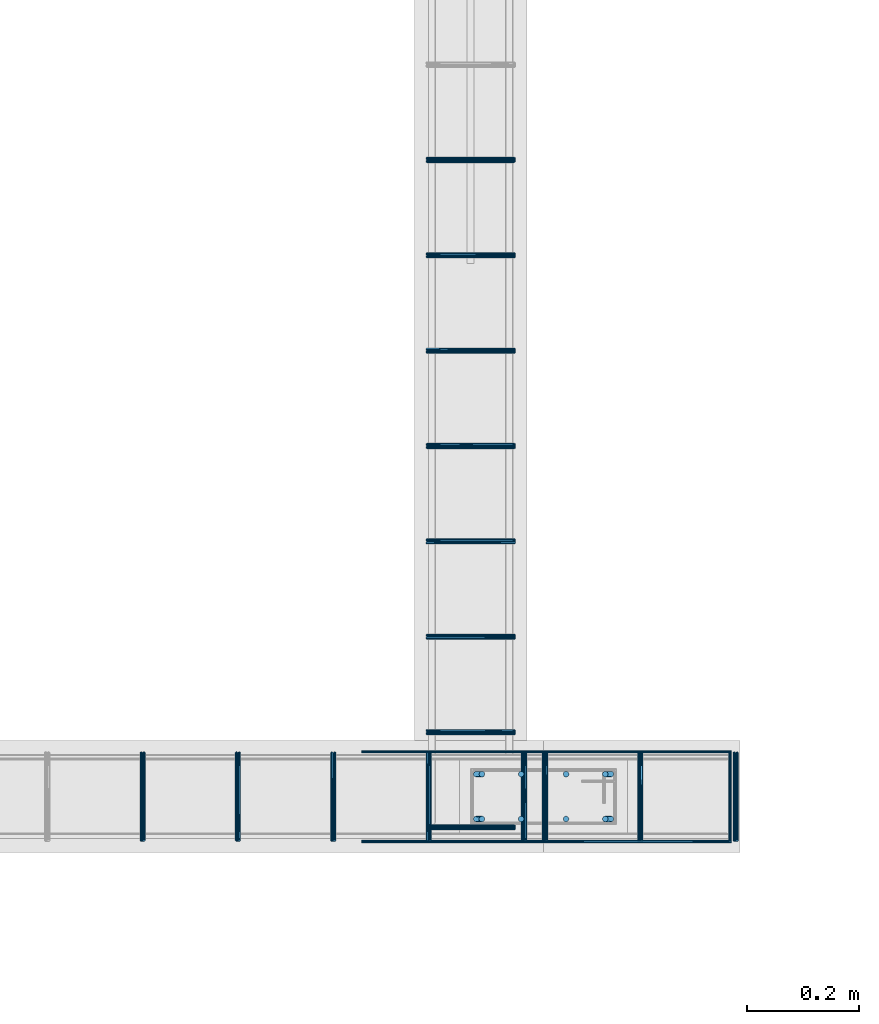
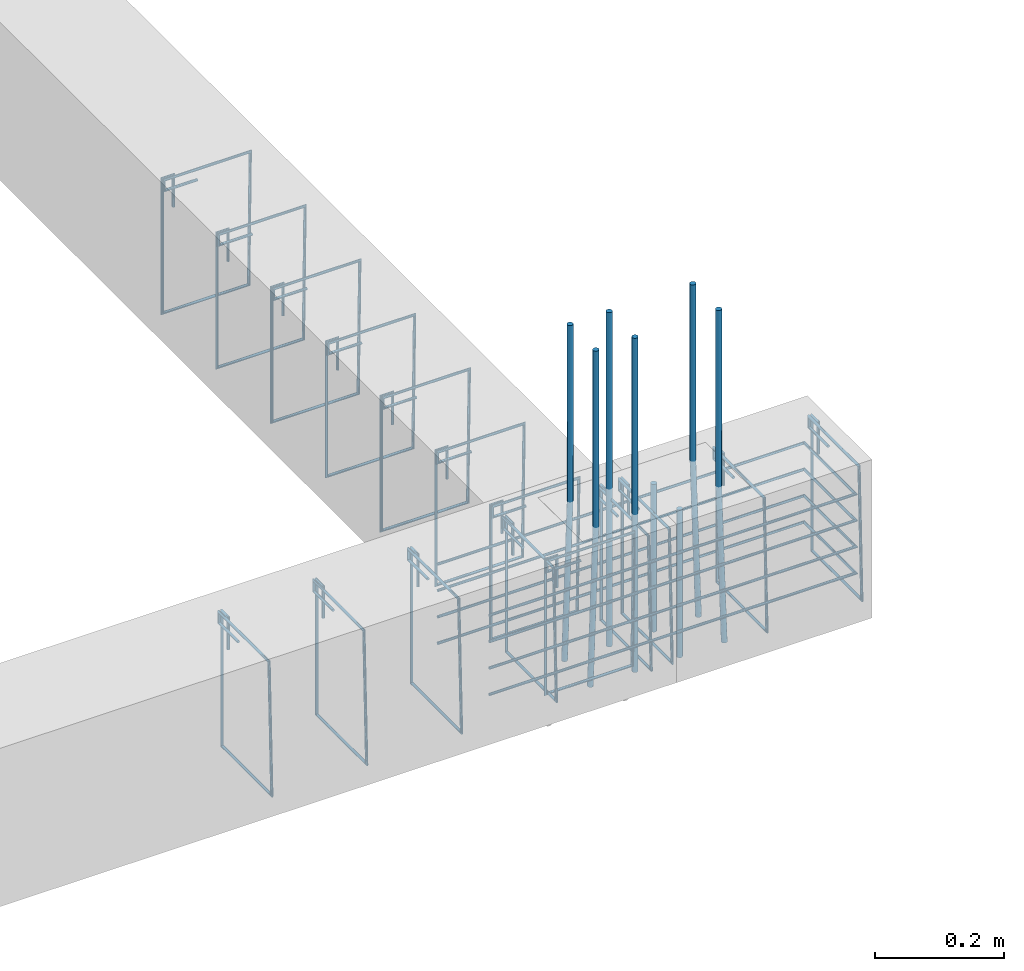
# One storey, part 105 of 150: 28 reinforcing bars.
"""IFC4 building model written with IfcOpenShell, lengths in centimetres."""

from ifc_helpers import new_model, entity, si_unit, derived_unit, frame, origin_with_axes, place, context, project, spatial, source, transform, mapped, element, save


model = new_model("IFC4")

# Units and contexts
model_context = context("Model", 3, precision=1e-05, world=origin_with_axes(), identifier="Body")
ifc_project = project(units=[si_unit("LENGTHUNIT", "METRE", prefix="CENTI"), si_unit("VOLUMEUNIT", "CUBIC_METRE"), si_unit("AREAUNIT", "SQUARE_METRE"), si_unit("POWERUNIT", "WATT"), si_unit("LUMINOUSFLUXUNIT", "LUMEN"), si_unit("ELECTRICCURRENTUNIT", "AMPERE"), si_unit("PRESSUREUNIT", "PASCAL", prefix="KILO"), si_unit("MASSUNIT", "GRAM", prefix="KILO"), si_unit("PLANEANGLEUNIT", "RADIAN"), derived_unit("VOLUMETRICFLOWRATEUNIT", [(si_unit("LENGTHUNIT", "METRE"), 3), (si_unit("TIMEUNIT", "SECOND"), -1)])], contexts=[model_context])

# Site, building, storey
site_placement = place(None, frame((-4000.0, 0.0, 0.0), z_axis=(0.0, 0.0, 1.0), x_axis=(1.0, 0.0, 0.0)))
site = spatial("IfcSite", under=ifc_project, at=site_placement, Name="PADRÃO")
building_placement = place(site_placement, frame((0.0, 0.0, -14.0)))
building = spatial("IfcBuilding", under=site, at=building_placement, Name="CRECHE PRÉ-ESCOLA TIPO 2")
placement = place(building_placement, origin_with_axes())
storey_placement = place(placement, frame((0.0, 0.0, 30.0), z_axis=(0.0, 0.0, 1.0), x_axis=(1.0, 0.0, 0.0)))
storey = spatial("IfcBuildingStorey", under=building, at=storey_placement, Name="VIGA BALDRAME", CompositionType="ELEMENT", Elevation=16.0)

# Reinforcing bars
shared_shape_1 = source(origin_with_axes(), model_context, "Body", "AdvancedSweptSolid", [
    entity("IfcSweptDiskSolid", entity("IfcCompositeCurve", [entity("IfcCompositeCurveSegment", "CONTINUOUS", True, entity("IfcPolyline", [entity("IfcCartesianPoint", [2.0, -6.0, 0.0]), entity("IfcCartesianPoint", [2.0, 0.0, 0.0])])), entity("IfcCompositeCurveSegment", "CONTINUOUS", True, entity("IfcPolyline", [entity("IfcCartesianPoint", [2.0, 0.0, 0.0]), entity("IfcCartesianPoint", [0.0, 0.0, 0.0])])), entity("IfcCompositeCurveSegment", "CONTINUOUS", True, entity("IfcPolyline", [entity("IfcCartesianPoint", [0.0, 0.0, 0.0]), entity("IfcCartesianPoint", [0.0, -25.5, 0.0])])), entity("IfcCompositeCurveSegment", "CONTINUOUS", True, entity("IfcPolyline", [entity("IfcCartesianPoint", [0.0, -25.5, 0.0]), entity("IfcCartesianPoint", [15.5, -25.5, 0.0])])), entity("IfcCompositeCurveSegment", "CONTINUOUS", True, entity("IfcPolyline", [entity("IfcCartesianPoint", [15.5, -25.5, 0.0]), entity("IfcCartesianPoint", [15.5, 0.0, 0.5])])), entity("IfcCompositeCurveSegment", "CONTINUOUS", True, entity("IfcPolyline", [entity("IfcCartesianPoint", [15.5, 0.0, 0.5]), entity("IfcCartesianPoint", [0.0, 0.0, 0.5])])), entity("IfcCompositeCurveSegment", "CONTINUOUS", True, entity("IfcPolyline", [entity("IfcCartesianPoint", [0.0, 0.0, 0.5]), entity("IfcCartesianPoint", [0.0, -2.0, 0.5])])), entity("IfcCompositeCurveSegment", "CONTINUOUS", True, entity("IfcPolyline", [entity("IfcCartesianPoint", [0.0, -2.0, 0.5]), entity("IfcCartesianPoint", [6.0, -2.0, 0.5])]))], False), 0.25),
])
for number, where, z_axis, x_axis, name in (
    (1, (3355.25, 2798.77, -2.25), (0.0, -1.0, 0.0), (1.0, 0.0, 0.0), "V227 - Estribo"),
    (2, (3355.25, 2781.77, -2.25), (0.0, -1.0, 0.0), (1.0, 0.0, 0.0), "V227 - Estribo"),
    (3, (3355.25, 2764.77, -2.25), (0.0, -1.0, 0.0), (1.0, 0.0, 0.0), "V227 - Estribo"),
    (4, (3355.25, 2747.77, -2.25), (0.0, -1.0, 0.0), (1.0, 0.0, 0.0), "V227 - Estribo"),
    (5, (3355.25, 2730.77, -2.25), (0.0, -1.0, 0.0), (1.0, 0.0, 0.0), "V227 - Estribo"),
    (6, (3355.25, 2713.77, -2.25), (0.0, -1.0, 0.0), (1.0, 0.0, 0.0), "V227 - Estribo"),
    (7, (3355.25, 2696.77, -2.25), (0.0, -1.0, 0.0), (1.0, 0.0, 0.0), "V227 - Estribo"),
    (8, (3355.25, 2679.77, -2.25), (0.0, -1.0, 0.0), (1.0, 0.0, 0.0), "V227 - Estribo"),
):
    element("IfcReinforcingBar", number, at=place(storey_placement, frame(where, z_axis=z_axis, x_axis=x_axis)), inside=storey, Name=name, BarLength=0.0, CrossSectionArea=1.9634954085e-05, NominalDiameter=0.5, PredefinedType="MAIN", context=model_context, shape_type="MappedRepresentation", body=[
        mapped(shared_shape_1, transform((0.0, 0.0, 0.0), scale=1.0)),
    ])
shared_shape_2 = source(origin_with_axes(), model_context, "Body", "AdvancedSweptSolid", [
    entity("IfcSweptDiskSolid", entity("IfcCompositeCurve", [entity("IfcCompositeCurveSegment", "CONTINUOUS", True, entity("IfcPolyline", [entity("IfcCartesianPoint", [2.0, -6.0, 0.0]), entity("IfcCartesianPoint", [2.0, 0.0, 0.0])])), entity("IfcCompositeCurveSegment", "CONTINUOUS", True, entity("IfcPolyline", [entity("IfcCartesianPoint", [2.0, 0.0, 0.0]), entity("IfcCartesianPoint", [0.0, 0.0, 0.0])])), entity("IfcCompositeCurveSegment", "CONTINUOUS", True, entity("IfcPolyline", [entity("IfcCartesianPoint", [0.0, 0.0, 0.0]), entity("IfcCartesianPoint", [0.0, -25.5, 0.0])])), entity("IfcCompositeCurveSegment", "CONTINUOUS", True, entity("IfcPolyline", [entity("IfcCartesianPoint", [0.0, -25.5, 0.0]), entity("IfcCartesianPoint", [15.5, -25.5, 0.0])])), entity("IfcCompositeCurveSegment", "CONTINUOUS", True, entity("IfcPolyline", [entity("IfcCartesianPoint", [15.5, -25.5, 0.0]), entity("IfcCartesianPoint", [15.5, 0.0, 0.5])])), entity("IfcCompositeCurveSegment", "CONTINUOUS", True, entity("IfcPolyline", [entity("IfcCartesianPoint", [15.5, 0.0, 0.5]), entity("IfcCartesianPoint", [0.0, 0.0, 0.5])])), entity("IfcCompositeCurveSegment", "CONTINUOUS", True, entity("IfcPolyline", [entity("IfcCartesianPoint", [0.0, 0.0, 0.5]), entity("IfcCartesianPoint", [0.0, -2.0, 0.5])])), entity("IfcCompositeCurveSegment", "CONTINUOUS", True, entity("IfcPolyline", [entity("IfcCartesianPoint", [0.0, -2.0, 0.5]), entity("IfcCartesianPoint", [6.0, -2.0, 0.5])]))], False), 0.25),
])
for number, where, z_axis, x_axis, name in (
    (9, (3338.75, 2692.77, -2.25), (-1.0, 0.0, 0.0), (0.0, -1.0, 0.0), "V118 - Estribo"),
    (10, (3304.75, 2692.77, -2.25), (-1.0, 0.0, 0.0), (0.0, -1.0, 0.0), "V118 - Estribo"),
    (11, (3321.75, 2692.77, -2.25), (-1.0, 0.0, 0.0), (0.0, -1.0, 0.0), "V118 - Estribo"),
    (12, (3355.75, 2692.77, -2.25), (-1.0, 0.0, 0.0), (0.0, -1.0, 0.0), "V118 - Estribo"),
    (13, (3372.75, 2692.77, -2.25), (-1.0, 0.0, 0.0), (0.0, -1.0, 0.0), "V118 - Estribo"),
):
    element("IfcReinforcingBar", number, at=place(storey_placement, frame(where, z_axis=z_axis, x_axis=x_axis)), inside=storey, Name=name, BarLength=0.0, CrossSectionArea=1.9634954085e-05, NominalDiameter=0.5, PredefinedType="MAIN", context=model_context, shape_type="MappedRepresentation", body=[
        mapped(shared_shape_2, transform((0.0, 0.0, 0.0), scale=1.0)),
    ])
shared_shape_3 = source(origin_with_axes(), model_context, "Body", "AdvancedSweptSolid", [
    entity("IfcSweptDiskSolid", entity("IfcCompositeCurve", [entity("IfcCompositeCurveSegment", "CONTINUOUS", True, entity("IfcPolyline", [entity("IfcCartesianPoint", [2.0, -6.0, 0.0]), entity("IfcCartesianPoint", [2.0, 0.0, 0.0])])), entity("IfcCompositeCurveSegment", "CONTINUOUS", True, entity("IfcPolyline", [entity("IfcCartesianPoint", [2.0, 0.0, 0.0]), entity("IfcCartesianPoint", [0.0, 0.0, 0.0])])), entity("IfcCompositeCurveSegment", "CONTINUOUS", True, entity("IfcPolyline", [entity("IfcCartesianPoint", [0.0, 0.0, 0.0]), entity("IfcCartesianPoint", [0.0, -25.5, 0.0])])), entity("IfcCompositeCurveSegment", "CONTINUOUS", True, entity("IfcPolyline", [entity("IfcCartesianPoint", [0.0, -25.5, 0.0]), entity("IfcCartesianPoint", [15.5, -25.5, 0.0])])), entity("IfcCompositeCurveSegment", "CONTINUOUS", True, entity("IfcPolyline", [entity("IfcCartesianPoint", [15.5, -25.5, 0.0]), entity("IfcCartesianPoint", [15.5, 0.0, 0.5])])), entity("IfcCompositeCurveSegment", "CONTINUOUS", True, entity("IfcPolyline", [entity("IfcCartesianPoint", [15.5, 0.0, 0.5]), entity("IfcCartesianPoint", [0.0, 0.0, 0.5])])), entity("IfcCompositeCurveSegment", "CONTINUOUS", True, entity("IfcPolyline", [entity("IfcCartesianPoint", [0.0, 0.0, 0.5]), entity("IfcCartesianPoint", [0.0, -2.0, 0.5])])), entity("IfcCompositeCurveSegment", "CONTINUOUS", True, entity("IfcPolyline", [entity("IfcCartesianPoint", [0.0, -2.0, 0.5]), entity("IfcCartesianPoint", [6.0, -2.0, 0.5])]))], False), 0.25),
])
for number, where, z_axis, x_axis, name in (
    (14, (3410.5, 2692.77, -2.25), (-1.0, 0.0, 0.0), (0.0, -1.0, 0.0), "V118 - Estribo"),
    (15, (3393.5, 2692.77, -2.25), (-1.0, 0.0, 0.0), (0.0, -1.0, 0.0), "V118 - Estribo"),
    (16, (3376.5, 2692.77, -2.25), (-1.0, 0.0, 0.0), (0.0, -1.0, 0.0), "V118 - Estribo"),
):
    element("IfcReinforcingBar", number, at=place(storey_placement, frame(where, z_axis=z_axis, x_axis=x_axis)), inside=storey, Name=name, BarLength=0.0, CrossSectionArea=1.9634954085e-05, NominalDiameter=0.5, PredefinedType="MAIN", context=model_context, shape_type="MappedRepresentation", body=[
        mapped(shared_shape_3, transform((0.0, 0.0, 0.0), scale=1.0)),
    ])
shared_shape_4 = source(origin_with_axes(), model_context, "Body", "AdvancedSweptSolid", [
    entity("IfcSweptDiskSolid", entity("IfcCompositeCurve", [entity("IfcCompositeCurveSegment", "CONTINUOUS", True, entity("IfcPolyline", [entity("IfcCartesianPoint", [0.0, 0.0, 0.0]), entity("IfcCartesianPoint", [65.7013828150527, 0.0, 0.0])])), entity("IfcCompositeCurveSegment", "CONTINUOUS", True, entity("IfcPolyline", [entity("IfcCartesianPoint", [65.7013828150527, 0.0, 0.0]), entity("IfcCartesianPoint", [65.7013828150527, 16.0, 0.0])])), entity("IfcCompositeCurveSegment", "CONTINUOUS", True, entity("IfcPolyline", [entity("IfcCartesianPoint", [65.7013828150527, 16.0, 0.0]), entity("IfcCartesianPoint", [0.0, 16.0, 0.0])]))], False), 0.25),
])
for number, where, z_axis, x_axis, name in (
    (17, (3343.54861718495, 2677.02, -7.1), (0.0, 0.0, 1.0), (1.0, 0.0, 0.0), "V118 - Grampo"),
    (18, (3343.54861718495, 2677.02, -22.1), (0.0, 0.0, 1.0), (1.0, 0.0, 0.0), "V118 - Grampo"),
    (19, (3343.54861718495, 2677.02, -12.1), (0.0, 0.0, 1.0), (1.0, 0.0, 0.0), "V118 - Grampo"),
    (20, (3343.54861718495, 2677.02, -17.1), (0.0, 0.0, 1.0), (1.0, 0.0, 0.0), "V118 - Grampo"),
):
    element("IfcReinforcingBar", number, at=place(storey_placement, frame(where, z_axis=z_axis, x_axis=x_axis)), inside=storey, Name=name, BarLength=0.0, CrossSectionArea=1.9634954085e-05, NominalDiameter=0.5, PredefinedType="MAIN", context=model_context, shape_type="MappedRepresentation", body=[
        mapped(shared_shape_4, transform((0.0, 0.0, 0.0), scale=1.0)),
    ])
reinforcing_bar_1_placement = place(storey_placement, frame((3364.50013877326, 2681.02, 33.3573001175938), z_axis=(0.0, 0.0, 1.0), x_axis=(1.0, 0.0, 0.0)))
element("IfcReinforcingBar", 21, at=reinforcing_bar_1_placement, inside=storey, Name="P69 - Longitudinal", BarLength=0.0, CrossSectionArea=7.853981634e-05, NominalDiameter=1.0, PredefinedType="MAIN", context=model_context, shape_type="AdvancedSweptSolid", body=[
    entity("IfcSweptDiskSolid", entity("IfcCompositeCurve", [entity("IfcCompositeCurveSegment", "CONTINUOUS", True, entity("IfcPolyline", [entity("IfcCartesianPoint", [-0.500138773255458, 0.0, -63.3573001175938]), entity("IfcCartesianPoint", [0.499861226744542, 0.0, -33.3573001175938])])), entity("IfcCompositeCurveSegment", "CONTINUOUS", True, entity("IfcPolyline", [entity("IfcCartesianPoint", [0.499861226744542, 0.0, -33.3573001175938]), entity("IfcCartesianPoint", [0.499861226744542, 0.0, 0.0])]))], False), 0.5),
])
for number, where, z_axis, x_axis, name in (
    (22, (3387.49986122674, 2681.02, 33.3573001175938), (0.0, 0.0, 1.0), (1.0, 0.0, 0.0), "P69 - Longitudinal"),
    (23, (3387.49986122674, 2689.02, 33.3573001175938), (0.0, 0.0, 1.0), (1.0, 0.0, 0.0), "P69 - Longitudinal"),
):
    element("IfcReinforcingBar", number, at=place(storey_placement, frame(where, z_axis=z_axis, x_axis=x_axis)), inside=storey, Name=name, BarLength=0.0, CrossSectionArea=7.853981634e-05, NominalDiameter=1.0, PredefinedType="MAIN", context=model_context, shape_type="AdvancedSweptSolid", body=[
        entity("IfcSweptDiskSolid", entity("IfcCompositeCurve", [entity("IfcCompositeCurveSegment", "CONTINUOUS", True, entity("IfcPolyline", [entity("IfcCartesianPoint", [0.500138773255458, 0.0, -63.3573001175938]), entity("IfcCartesianPoint", [-0.499861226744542, 0.0, -33.3573001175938])])), entity("IfcCompositeCurveSegment", "CONTINUOUS", True, entity("IfcPolyline", [entity("IfcCartesianPoint", [-0.499861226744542, 0.0, -33.3573001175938]), entity("IfcCartesianPoint", [-0.499861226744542, 0.0, 0.0])]))], False), 0.5),
    ])
reinforcing_bar_2_placement = place(storey_placement, frame((3364.50013877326, 2689.02, 33.3573001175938), z_axis=(0.0, 0.0, 1.0), x_axis=(1.0, 0.0, 0.0)))
element("IfcReinforcingBar", 24, at=reinforcing_bar_2_placement, inside=storey, Name="P69 - Longitudinal", BarLength=0.0, CrossSectionArea=7.853981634e-05, NominalDiameter=1.0, PredefinedType="MAIN", context=model_context, shape_type="AdvancedSweptSolid", body=[
    entity("IfcSweptDiskSolid", entity("IfcCompositeCurve", [entity("IfcCompositeCurveSegment", "CONTINUOUS", True, entity("IfcPolyline", [entity("IfcCartesianPoint", [-0.500138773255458, 0.0, -63.3573001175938]), entity("IfcCartesianPoint", [0.499861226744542, 0.0, -33.3573001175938])])), entity("IfcCompositeCurveSegment", "CONTINUOUS", True, entity("IfcPolyline", [entity("IfcCartesianPoint", [0.499861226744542, 0.0, -33.3573001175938]), entity("IfcCartesianPoint", [0.499861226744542, 0.0, 0.0])]))], False), 0.5),
])
reinforcing_bar_3_placement = place(storey_placement, frame((3372.0, 2681.02, 33.3573001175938), z_axis=(0.0, 0.0, 1.0), x_axis=(1.0, 0.0, 0.0)))
element("IfcReinforcingBar", 25, at=reinforcing_bar_3_placement, inside=storey, Name="P69 - Longitudinal", BarLength=0.0, CrossSectionArea=7.853981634e-05, NominalDiameter=1.0, PredefinedType="MAIN", context=model_context, shape_type="AdvancedSweptSolid", body=[
    entity("IfcSweptDiskSolid", entity("IfcCompositeCurve", [entity("IfcCompositeCurveSegment", "CONTINUOUS", True, entity("IfcPolyline", [entity("IfcCartesianPoint", [0.0, 0.0, -63.3573001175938]), entity("IfcCartesianPoint", [0.0, 0.0, 0.0])]))], False), 0.5),
])
for number, where, z_axis, x_axis, name in (
    (26, (3380.0, 2681.02, -2.0), (0.0, 0.0, 1.0), (1.0, 0.0, 0.0), "P69 - Longitudinal"),
    (27, (3380.0, 2689.02, -2.0), (0.0, 0.0, 1.0), (1.0, 0.0, 0.0), "P69 - Longitudinal"),
):
    element("IfcReinforcingBar", number, at=place(storey_placement, frame(where, z_axis=z_axis, x_axis=x_axis)), inside=storey, Name=name, BarLength=0.0, CrossSectionArea=7.853981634e-05, NominalDiameter=1.0, PredefinedType="MAIN", context=model_context, shape_type="AdvancedSweptSolid", body=[
        entity("IfcSweptDiskSolid", entity("IfcCompositeCurve", [entity("IfcCompositeCurveSegment", "CONTINUOUS", True, entity("IfcPolyline", [entity("IfcCartesianPoint", [0.0, 0.0, -28.0]), entity("IfcCartesianPoint", [0.0, 0.0, 0.0])]))], False), 0.5),
    ])
reinforcing_bar_4_placement = place(storey_placement, frame((3372.0, 2689.02, 33.3573001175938), z_axis=(0.0, 0.0, 1.0), x_axis=(1.0, 0.0, 0.0)))
element("IfcReinforcingBar", 28, at=reinforcing_bar_4_placement, inside=storey, Name="P69 - Longitudinal", BarLength=0.0, CrossSectionArea=7.853981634e-05, NominalDiameter=1.0, PredefinedType="MAIN", context=model_context, shape_type="AdvancedSweptSolid", body=[
    entity("IfcSweptDiskSolid", entity("IfcCompositeCurve", [entity("IfcCompositeCurveSegment", "CONTINUOUS", True, entity("IfcPolyline", [entity("IfcCartesianPoint", [0.0, 0.0, -63.3573001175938]), entity("IfcCartesianPoint", [0.0, 0.0, 0.0])]))], False), 0.5),
])

save(model, "model.ifc")
